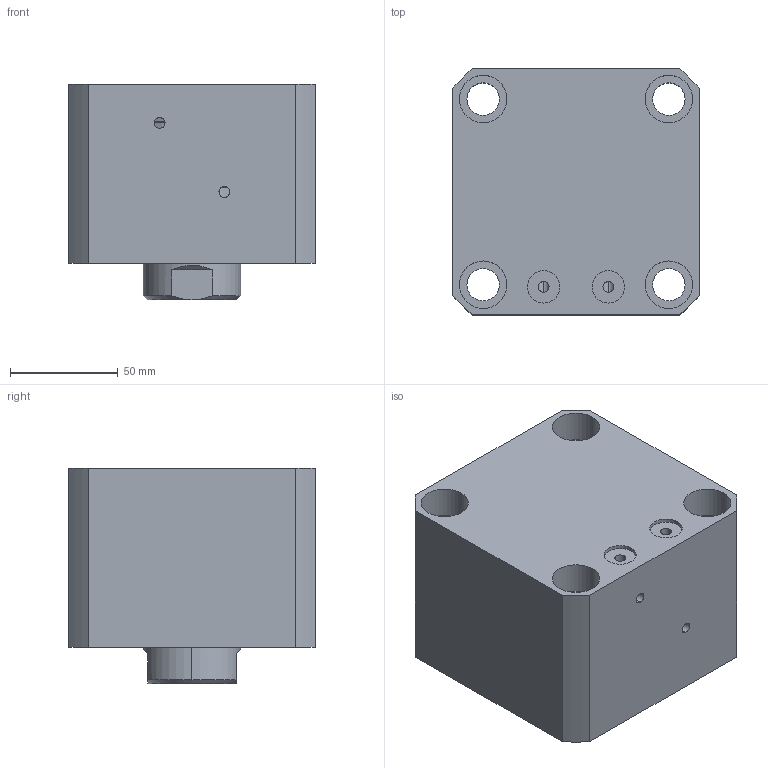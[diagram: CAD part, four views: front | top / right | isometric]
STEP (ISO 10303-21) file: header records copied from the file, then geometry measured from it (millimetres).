
FILE_DESCRIPTION (( 'STEP AP214' ), '1' );
FILE_NAME ('chtb-sdmb80x5n_asm.STEP', '2018-05-25T02:02:24', ( 'Windows' ), ( 'Microsoft' ), 'SwSTEP 2.0', 'SolidWorks 2015', '' );
FILE_SCHEMA (( 'AUTOMOTIVE_DESIGN' ));
Length unit declared in the file: millimetre
Products named in the file (4): CHTB-SDMB80X5NBT; CHTB-SD80X5NHSG; CHTB-SD80QG; chtb-sdmb80x5n_asm
Assembly tree (3 placements, depth 2):
  chtb-sdmb80x5n_asm
    CHTB-SD80QG
    CHTB-SD80X5NHSG
    CHTB-SDMB80X5NBT
Bounding box: 114 x 114 x 100 mm (x, y, z)
Volume: 952739.4 mm3; surface area: 154963.3 mm2
Topology: 3 solids, 3 shells, 190 faces, 516 edges, 345 vertices
Faces by surface type: cylinder 107, plane 35, torus 18, cone 16, bspline 14
Entity records: 15174 total; most frequent: CARTESIAN_POINT 10467, ORIENTED_EDGE 1020, DIRECTION 879, EDGE_CURVE 510, AXIS2_PLACEMENT_3D 368, VERTEX_POINT 345, EDGE_LOOP 227, ADVANCED_FACE 190
